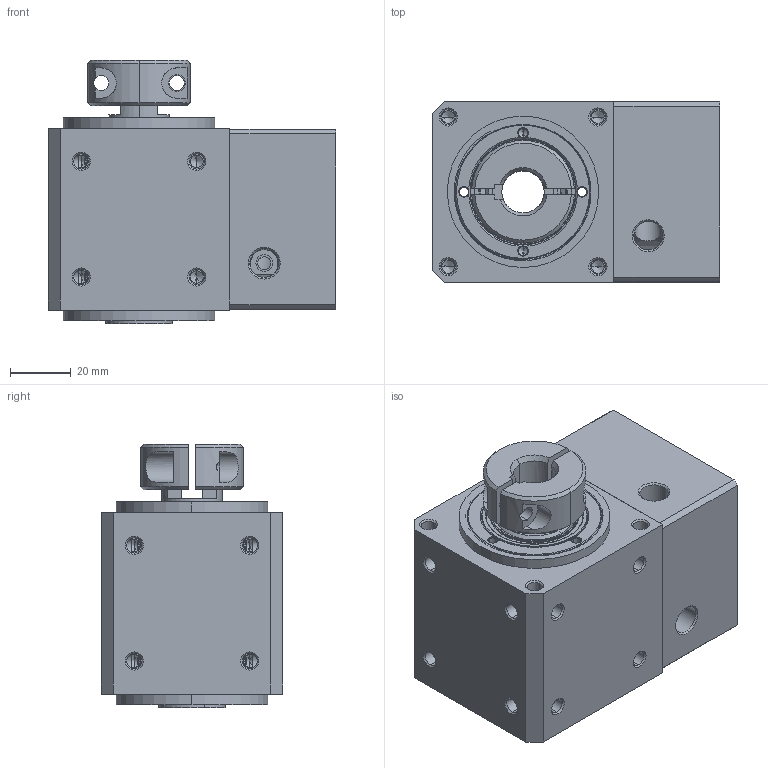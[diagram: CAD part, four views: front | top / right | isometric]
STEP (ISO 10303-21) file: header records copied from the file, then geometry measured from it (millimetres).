
FILE_DESCRIPTION (( 'STEP AP203' ), '1' );
FILE_NAME ('WS60F-2-14-50-70-M5.STEP', '2012-06-01T00:58:40', ( 'user' ), ( 'SYNNEX' ), 'SwSTEP 2.0', 'SolidWorks 2008', '' );
FILE_SCHEMA (( 'CONFIG_CONTROL_DESIGN' ));
Length unit declared in the file: millimetre
Products named in the file (1): WS60F-2-14-50-70-M5
Bounding box: 95 x 60 x 87 mm (x, y, z)
Volume: 232529.6 mm3; surface area: 101740.8 mm2
Topology: 10 solids, 10 shells, 1050 faces, 2709 edges, 1664 vertices
Faces by surface type: cylinder 439, cone 247, plane 188, sphere 112, torus 56, bspline 8
Entity records: 41648 total; most frequent: CARTESIAN_POINT 16551, DIRECTION 5353, ORIENTED_EDGE 5282, EDGE_CURVE 2641, AXIS2_PLACEMENT_3D 2274, VERTEX_POINT 1664, EDGE_LOOP 1233, CIRCLE 1231
